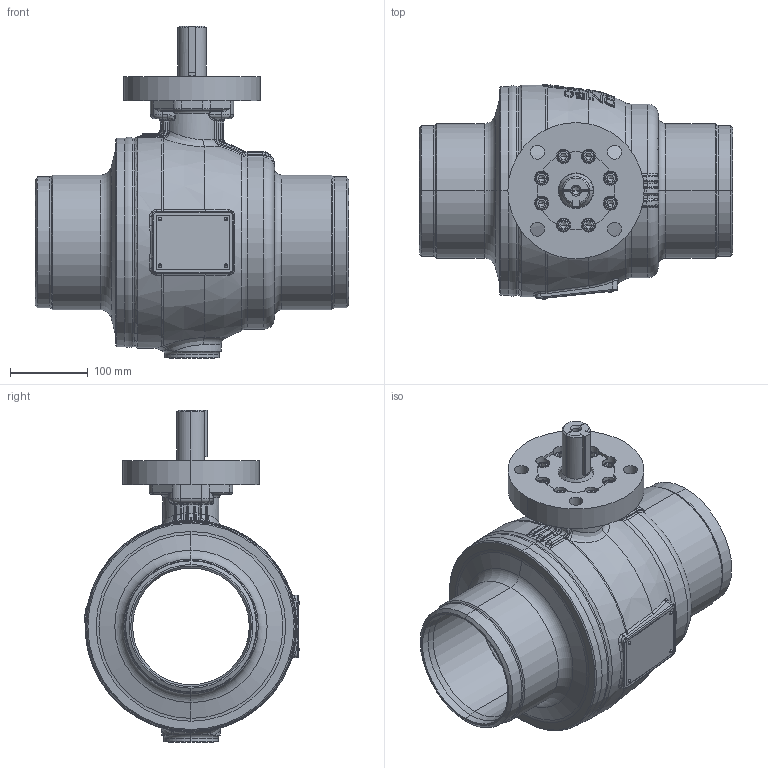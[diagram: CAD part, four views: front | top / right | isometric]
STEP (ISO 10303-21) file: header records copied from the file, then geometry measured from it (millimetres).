
FILE_DESCRIPTION((''),'2;1');
FILE_NAME('KHSVI_150_VVS-FG_FR_WE_F14','2026-01-27T14:09:47',('schwaba'),('KLINGER'),'CREO PARAMETRIC BY PTC INC, 2023014','CREO PARAMETRIC BY PTC INC, 2023014','');
FILE_SCHEMA(('CONFIG_CONTROL_DESIGN'));
Length unit declared in the file: millimetre
Products named in the file (1): KHSVI_150_VVS-FG_FR_WE_F14
Bounding box: 403 x 276.46 x 426.54 mm (x, y, z)
Volume: 6354990 mm3; surface area: 1141356.4 mm2
Topology: 1 solids, 3 shells, 1575 faces, 3926 edges, 2392 vertices
Faces by surface type: plane 622, cylinder 333, bspline 261, torus 214, cone 114, sphere 31
Entity records: 91787 total; most frequent: CARTESIAN_POINT 56475, ORIENTED_EDGE 7800, DIRECTION 6953, EDGE_CURVE 3900, AXIS2_PLACEMENT_3D 2897, VERTEX_POINT 2392, EDGE_LOOP 1682, CIRCLE 1583
